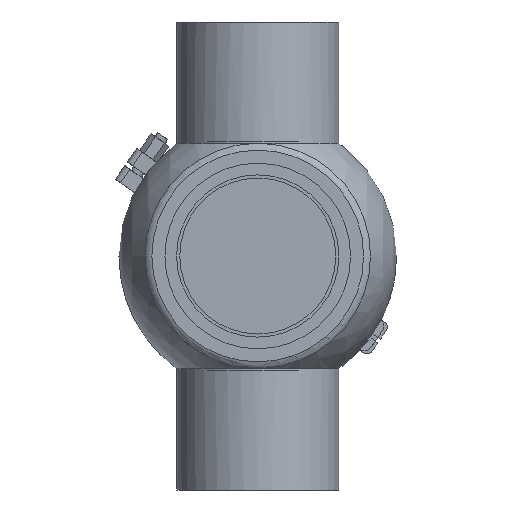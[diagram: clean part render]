
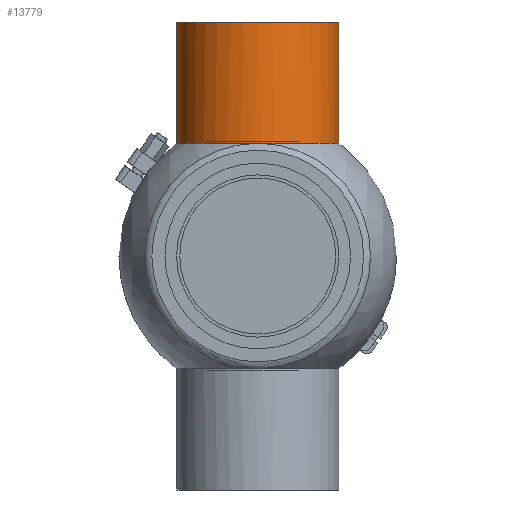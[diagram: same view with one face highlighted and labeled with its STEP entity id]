
A CAD part, front view. The second image highlights one B-rep face of the part: STEP entity #13779.
In plain terms, the highlighted cylindrical face has radius 52 mm (diameter 104 mm), a full revolution.
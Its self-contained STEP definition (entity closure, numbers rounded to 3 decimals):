
#1401 = CARTESIAN_POINT ( 'NONE',  ( 72.229, 51.971, 1.75 ) ) ;
#4535 = AXIS2_PLACEMENT_3D ( 'NONE', #40499, #36205, #8415 ) ;
#4587 = ORIENTED_EDGE ( 'NONE', *, *, #57095, .T. ) ;
#5713 = EDGE_CURVE ( 'NONE', #36026, #36026, #57240, .T. ) ;
#6123 = VERTEX_POINT ( 'NONE', #15099 ) ;
#7655 = CYLINDRICAL_SURFACE ( 'NONE', #36561, 52. ) ;
#8415 = DIRECTION ( 'NONE',  ( 0., 0., 1. ) ) ;
#8884 = FACE_OUTER_BOUND ( 'NONE', #39297, .T. ) ;
#10549 = EDGE_CURVE ( 'NONE', #47522, #30503, #55813, .T. ) ;
#12495 = B_SPLINE_CURVE_WITH_KNOTS ( 'NONE', 3,
 ( #34096, #43658, #29787, #34418, #47407, #1401 ),
 .UNSPECIFIED., .F., .F.,
 ( 4, 2, 4 ),
 ( 0.252, 0.254, 0.255 ),
 .UNSPECIFIED. ) ;
#13779 = ADVANCED_FACE ( 'NONE', ( #50834, #8884 ), #7655, .T. ) ;
#15099 = CARTESIAN_POINT ( 'NONE',  ( 72.229, -51.947, -2.34 ) ) ;
#17575 = DIRECTION ( 'NONE',  ( 0., 0., 1. ) ) ;
#20486 = CARTESIAN_POINT ( 'NONE',  ( 150., 0., 0. ) ) ;
#21764 = CARTESIAN_POINT ( 'NONE',  ( 72.229, 0., 0. ) ) ;
#22347 = EDGE_LOOP ( 'NONE', ( #27375, #51836, #4587, #31975 ) ) ;
#25331 = ORIENTED_EDGE ( 'NONE', *, *, #5713, .T. ) ;
#27375 = ORIENTED_EDGE ( 'NONE', *, *, #10549, .T. ) ;
#28660 = CIRCLE ( 'NONE', #45379, 52. ) ;
#28851 = CARTESIAN_POINT ( 'NONE',  ( 72.229, -51.947, 2.34 ) ) ;
#29099 = DIRECTION ( 'NONE',  ( -1., 0., 0. ) ) ;
#29787 = CARTESIAN_POINT ( 'NONE',  ( 72.25, 52., -0.587 ) ) ;
#30503 = VERTEX_POINT ( 'NONE', #48484 ) ;
#31414 = DIRECTION ( 'NONE',  ( -1., 0., 0. ) ) ;
#31975 = ORIENTED_EDGE ( 'NONE', *, *, #59682, .T. ) ;
#33144 = CARTESIAN_POINT ( 'NONE',  ( 72.229, -52.017, 0.786 ) ) ;
#33525 = AXIS2_PLACEMENT_3D ( 'NONE', #20486, #29099, #43888 ) ;
#34096 = CARTESIAN_POINT ( 'NONE',  ( 72.229, 51.971, -1.75 ) ) ;
#34418 = CARTESIAN_POINT ( 'NONE',  ( 72.25, 52., 0.584 ) ) ;
#36026 = VERTEX_POINT ( 'NONE', #36622 ) ;
#36205 = DIRECTION ( 'NONE',  ( 1., 0., 0. ) ) ;
#36513 = EDGE_CURVE ( 'NONE', #30503, #6123, #53198, .T. ) ;
#36561 = AXIS2_PLACEMENT_3D ( 'NONE', #40624, #31414, #17575 ) ;
#36622 = CARTESIAN_POINT ( 'NONE',  ( 150., 0., 52. ) ) ;
#36808 = DIRECTION ( 'NONE',  ( 0., 0., 1. ) ) ;
#38389 = CARTESIAN_POINT ( 'NONE',  ( 72.229, -52.018, -0.773 ) ) ;
#39297 = EDGE_LOOP ( 'NONE', ( #25331 ) ) ;
#40499 = CARTESIAN_POINT ( 'NONE',  ( 72.229, 0., 0. ) ) ;
#40517 = DIRECTION ( 'NONE',  ( 1., 0., 0. ) ) ;
#40624 = CARTESIAN_POINT ( 'NONE',  ( 0., 0., 0. ) ) ;
#43658 = CARTESIAN_POINT ( 'NONE',  ( 72.243, 51.99, -1.17 ) ) ;
#43888 = DIRECTION ( 'NONE',  ( 0., 0., 1. ) ) ;
#44377 = VERTEX_POINT ( 'NONE', #59387 ) ;
#45379 = AXIS2_PLACEMENT_3D ( 'NONE', #21764, #40517, #36808 ) ;
#46667 = CARTESIAN_POINT ( 'NONE',  ( 72.229, 51.971, 1.75 ) ) ;
#47407 = CARTESIAN_POINT ( 'NONE',  ( 72.243, 51.99, 1.168 ) ) ;
#47522 = VERTEX_POINT ( 'NONE', #46667 ) ;
#48484 = CARTESIAN_POINT ( 'NONE',  ( 72.229, -51.947, 2.34 ) ) ;
#50834 = FACE_OUTER_BOUND ( 'NONE', #22347, .T. ) ;
#51836 = ORIENTED_EDGE ( 'NONE', *, *, #36513, .T. ) ;
#53198 = B_SPLINE_CURVE_WITH_KNOTS ( 'NONE', 3,
 ( #28851, #33144, #38389, #57293 ),
 .UNSPECIFIED., .F., .F.,
 ( 4, 4 ),
 ( 0.022, 0.026 ),
 .UNSPECIFIED. ) ;
#55813 = CIRCLE ( 'NONE', #4535, 52. ) ;
#57095 = EDGE_CURVE ( 'NONE', #6123, #44377, #28660, .T. ) ;
#57240 = CIRCLE ( 'NONE', #33525, 52. ) ;
#57293 = CARTESIAN_POINT ( 'NONE',  ( 72.229, -51.947, -2.34 ) ) ;
#59387 = CARTESIAN_POINT ( 'NONE',  ( 72.229, 51.971, -1.75 ) ) ;
#59682 = EDGE_CURVE ( 'NONE', #44377, #47522, #12495, .T. ) ;
